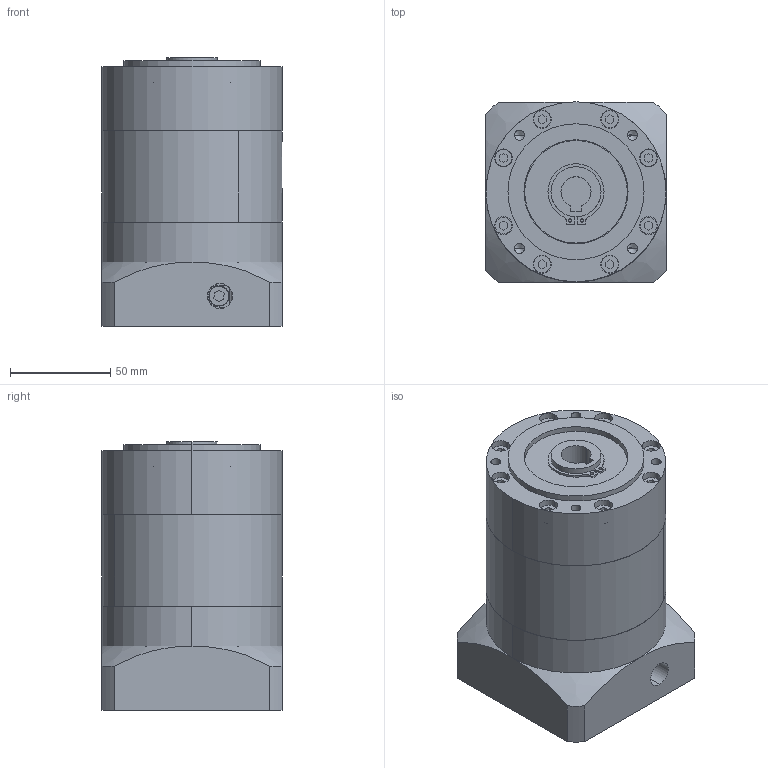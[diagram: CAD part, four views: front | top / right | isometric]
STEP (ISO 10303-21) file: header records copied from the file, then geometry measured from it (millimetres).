
FILE_DESCRIPTION (( 'STEP AP203' ), '1' );
FILE_NAME ('PBE90-L2-14-73-98.4.STEP', '2022-07-23T08:52:46', ( 'Windows User' ), ( 'P R C' ), 'SwSTEP 2.0', 'SolidWorks 2016', '' );
FILE_SCHEMA (( 'CONFIG_CONTROL_DESIGN' ));
Length unit declared in the file: millimetre
Products named in the file (7): PBE90 狟屳唳-14_D6-90 D7-19 梓袧; 囀鞠褒蹟佪 M6x20; PBE90 內齿圈-优化_二级内齿圈; 粣創-6007 35x62x14; PBE90 蟀諉啣-73-M6-98.4_D8-70 D9-90 D10-M5 A2-90 L4-32 L6-47(32+15) L7-6 R-59.5梓袧; PBE90 奻屳唳; PBE90-L2-14-73-98.4
Assembly tree (6 placements, depth 2):
  PBE90-L2-14-73-98.4
    PBE90 內齿圈-优化_二级内齿圈
    PBE90 狟屳唳-14_D6-90 D7-19 梓袧
    囀鞠褒蹟佪 M6x20
    粣創-6007 35x62x14
    PBE90 蟀諉啣-73-M6-98.4_D8-70 D9-90 D10-M5 A2-90 L4-32 L6-47(32+15) L7-6 R-59.5梓袧
    PBE90 奻屳唳
Bounding box: 90 x 90 x 134 mm (x, y, z)
Volume: 777884.2 mm3; surface area: 145207.1 mm2
Topology: 6 solids, 6 shells, 1093 faces, 2925 edges, 1929 vertices
Faces by surface type: plane 577, bspline 308, cylinder 190, cone 18
Entity records: 46365 total; most frequent: CARTESIAN_POINT 20201, ORIENTED_EDGE 5818, DIRECTION 4418, EDGE_CURVE 2909, VERTEX_POINT 1929, AXIS2_PLACEMENT_3D 1473, VECTOR 1472, LINE 1472
